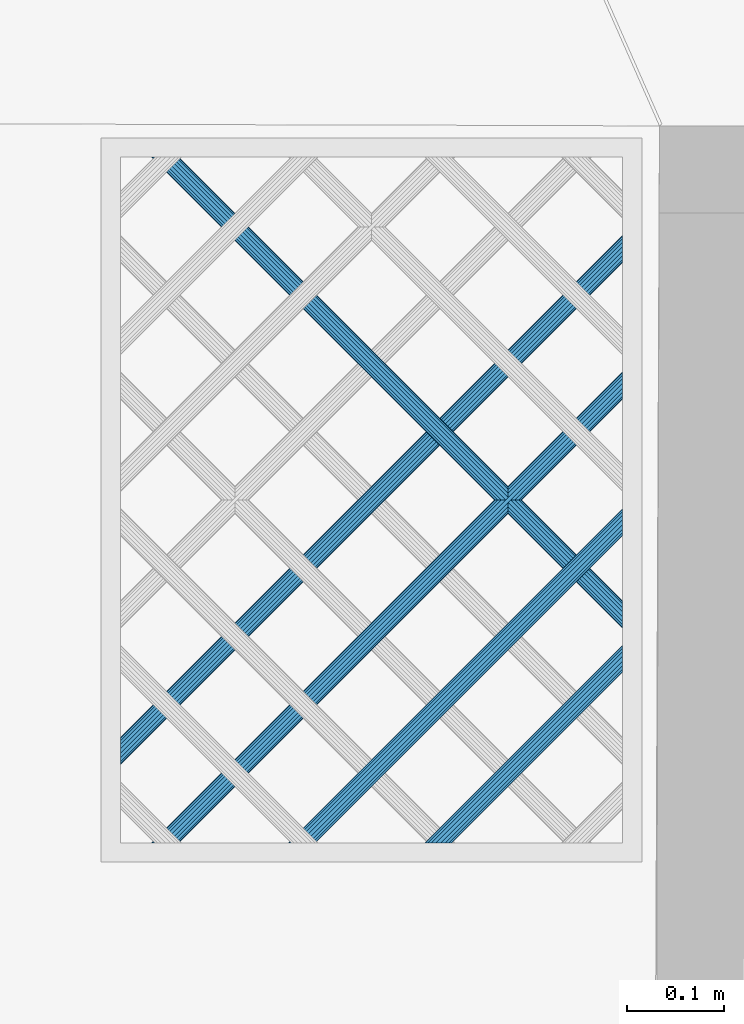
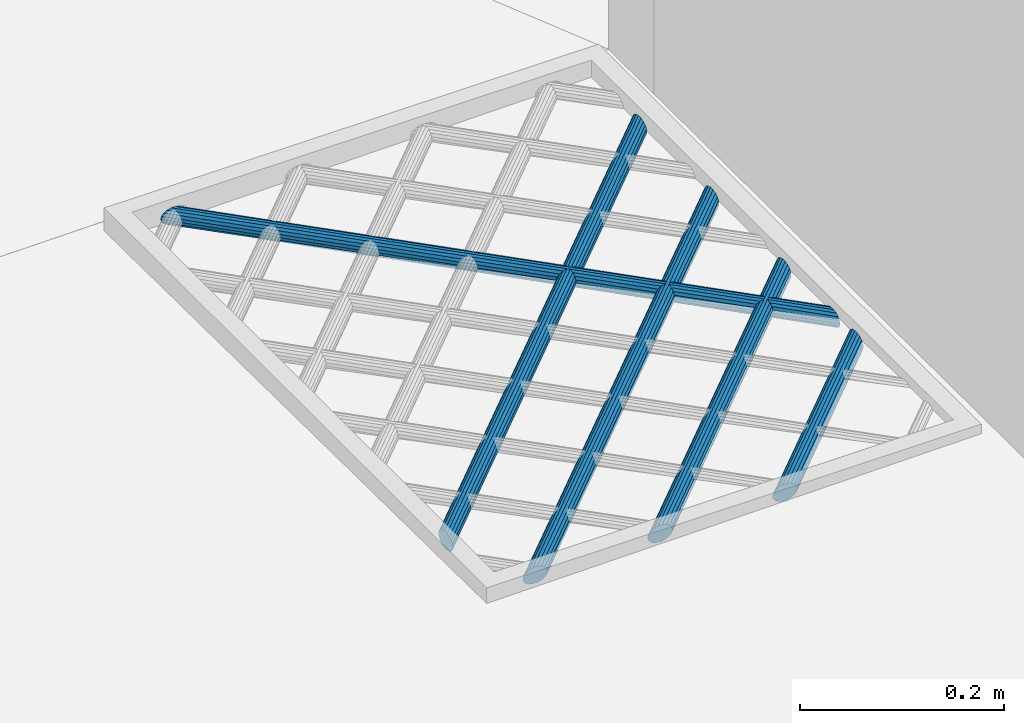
# One storey, part 53 of 133: 5 members, 1 element without a shape of its own.
"""IFC2X3 building model written with IfcOpenShell, lengths in centimetres."""

import ifcopenshell
import ifcopenshell.guid

model = None  # the IFC model being written
_history = None  # IfcOwnerHistory: only IFC2X3 demands one
_inside = {}  # id of a spatial element -> (the spatial element, [elements in it])
_under = {}  # id of a project, library or spatial element -> (it, [spatial elements below it])
_declared = {}  # id of a project -> (the project, [libraries it declares])
_typed = {}  # id of a type object -> (the type object, [elements of that type])
_made_of = {}  # id of a material, layer set ... -> (it, [elements and type objects made of it])


def new_model(schema):
    """Start an empty IFC model of exactly this schema.

    Asked for "IFC4X3", IfcOpenShell would pick the latest addendum, in which some entities
    have other attributes; the version numbers below select the first issue.
    IFC2X3 requires an IfcOwnerHistory on every rooted entity: one is made here for all.
    """
    global model, _history
    if schema == "IFC4X3":
        model = ifcopenshell.file(schema_version=(4, 3, 0, 0))
    else:
        model = ifcopenshell.file(schema=schema)
    _inside.clear()
    _under.clear()
    _declared.clear()
    _typed.clear()
    _made_of.clear()
    _history = None
    if model.schema == "IFC2X3":
        org = make("IfcOrganization", Name="unknown")
        user = make(
            "IfcPersonAndOrganization",
            ThePerson=make("IfcPerson", FamilyName="unknown"),
            TheOrganization=org,
        )
        app = make(
            "IfcApplication",
            ApplicationDeveloper=org,
            Version="unknown",
            ApplicationFullName="unknown",
            ApplicationIdentifier="unknown",
        )
        _history = make(
            "IfcOwnerHistory",
            OwningUser=user,
            OwningApplication=app,
            ChangeAction="ADDED",
            CreationDate=0,
        )
    return model


def make(cls, **values):
    """One entity of the class cls with the attributes given. An attribute that is None is left unset."""
    return model.create_entity(
        cls, **{name: value for name, value in values.items() if value is not None}
    )


def entity(cls, *values):
    """Any entity or typed value of the class cls, its attributes in the order of the schema. None: left unset."""
    e = model.create_entity(cls)
    for i, value in enumerate(values):
        if value is not None:
            e[i] = value
    return e


def rooted(cls, **values):
    """An entity with a GlobalId (a new one), such as an element, a storey or a relation."""
    return make(cls, GlobalId=ifcopenshell.guid.new(), OwnerHistory=_history, **values)


def si_unit(unit_type, name, prefix=None):
    """IfcSIUnit, for example si_unit("LENGTHUNIT", "METRE", prefix="MILLI")."""
    return make("IfcSIUnit", UnitType=unit_type, Prefix=prefix, Name=name)


def converted_unit(unit_type, name, factor, base, dimensions=None, offset=None):
    """IfcConversionBasedUnit, such as the inch: factor (a typed value) times the base unit."""
    return make(
        "IfcConversionBasedUnit"
        if offset is None
        else "IfcConversionBasedUnitWithOffset",
        ConversionOffset=offset,
        Dimensions=None
        if dimensions is None
        else entity("IfcDimensionalExponents", *dimensions),
        UnitType=unit_type,
        Name=name,
        ConversionFactor=make(
            "IfcMeasureWithUnit", ValueComponent=factor, UnitComponent=base
        ),
    )


def assignment(units):
    """IfcUnitAssignment: the units of a project."""
    return None if units is None else make("IfcUnitAssignment", Units=units)


def point(xyz):
    """IfcCartesianPoint."""
    return None if xyz is None else make("IfcCartesianPoint", Coordinates=xyz)


def direction(xyz):
    """IfcDirection."""
    return None if xyz is None else make("IfcDirection", DirectionRatios=xyz)


def frame(location, z_axis=None, x_axis=None):
    """IfcAxis2Placement3D, a coordinate frame: its origin and axes. An axis left out is left unset."""
    return make(
        "IfcAxis2Placement3D",
        Location=point(location),
        Axis=direction(z_axis),
        RefDirection=direction(x_axis),
    )


def origin():
    """The frame at (0, 0, 0) with its axes left unset."""
    return frame((0.0, 0.0, 0.0))


def origin_with_axes():
    """The frame at (0, 0, 0) with the z axis (0, 0, 1) and the x axis (1, 0, 0) written out."""
    return frame((0.0, 0.0, 0.0), z_axis=(0.0, 0.0, 1.0), x_axis=(1.0, 0.0, 0.0))


def place(relative_to, where):
    """IfcLocalPlacement: puts the frame where relative to a parent placement (None: the world)."""
    return make(
        "IfcLocalPlacement", PlacementRelTo=relative_to, RelativePlacement=where
    )


def context(
    kind, dimensions, precision=None, world=None, true_north=None, identifier=None
):
    """IfcGeometricRepresentationContext, for example the 3D "Model" context."""
    return make(
        "IfcGeometricRepresentationContext",
        ContextIdentifier=identifier,
        ContextType=kind,
        CoordinateSpaceDimension=dimensions,
        Precision=precision,
        WorldCoordinateSystem=world,
        TrueNorth=true_north,
    )


def subcontext(parent, identifier, kind, view, scale=None):
    """IfcGeometricRepresentationSubContext, for example "Body" below "Model"."""
    return make(
        "IfcGeometricRepresentationSubContext",
        ContextIdentifier=identifier,
        ContextType=kind,
        ParentContext=parent,
        TargetScale=scale,
        TargetView=view,
    )


def project(units=None, contexts=None):
    """IfcProject with its units and contexts."""
    return rooted(
        "IfcProject",
        Name="project",
        RepresentationContexts=contexts,
        UnitsInContext=assignment(units),
    )


def spatial(cls, under=None, at=None, **own):
    """A site, building, storey or space (cls), placed at a placement, below another one or the project."""
    s = rooted(cls, ObjectPlacement=at, **own)
    if under is not None:
        _under.setdefault(under.id(), (under, []))[1].append(s)
    return s


def faces_of(points, faces, orient=None, outer=None):
    """IfcFace entities. A face is a list of loops; a loop is a list of indices into points, from 0.

    orient and outer hold one flag for each loop. By default every Orientation is true, the
    first loop of a face is its IfcFaceOuterBound and the others are IfcFaceBound.
    """
    made = []
    for i, loops in enumerate(faces):
        bounds = []
        for j, loop in enumerate(loops):
            is_outer = j == 0 if outer is None else outer[i][j]
            bounds.append(
                make(
                    "IfcFaceOuterBound" if is_outer else "IfcFaceBound",
                    Bound=make("IfcPolyLoop", Polygon=[points[k] for k in loop]),
                    Orientation=True if orient is None else orient[i][j],
                )
            )
        made.append(make("IfcFace", Bounds=bounds))
    return made


def faceted_brep(points, faces, orient=None, outer=None, voids=None):
    """IfcFacetedBrep: a solid bounded by flat faces; with voids (closed shells), ...WithVoids."""
    shared = [point(p) for p in points]
    hull = make("IfcClosedShell", CfsFaces=faces_of(shared, faces, orient, outer))
    if voids is None:
        return make("IfcFacetedBrep", Outer=hull)
    return make(
        "IfcFacetedBrepWithVoids",
        Outer=hull,
        Voids=[
            make(cls, CfsFaces=faces_of(shared, fs, o, b)) for cls, fs, o, b in voids
        ],
    )


def shape(context_of_items, identifier, shape_type, items):
    """IfcShapeRepresentation: the items that make up one representation, for example the "Body"."""
    return make(
        "IfcShapeRepresentation",
        ContextOfItems=context_of_items,
        RepresentationIdentifier=identifier,
        RepresentationType=shape_type,
        Items=items,
    )


def material(Name=None, Category=None):
    """IfcMaterial."""
    return make("IfcMaterial", Name=Name, Category=Category)


def made_of(thing, what):
    """Note that an element or type object is made of a material, layer set ...; save() writes the relation."""
    if what is not None:
        _made_of.setdefault(what.id(), (what, []))[1].append(thing)
    return thing


def type_object(cls, material=None, **own):
    """A type object (cls), such as IfcWallType, which elements share."""
    return made_of(rooted(cls, **own), material)


def element(
    cls,
    number,
    at=None,
    inside=None,
    cuts=None,
    type_object=None,
    material=None,
    context=None,
    identifier="Body",
    shape_type=None,
    held_by="IfcProductDefinitionShape",
    body=None,
    shapes=None,
    **own,
):
    """One element of the class cls, such as IfcWall. Its Tag is "e" and its number.

    at: its placement. inside: the storey or other place that contains it. cuts: it is an
    opening in that element (IfcRelVoidsElement). A single representation is given by context,
    identifier, shape_type and body (its items); several are given by shapes. held_by: the class
    of the entity that holds the representations. save() writes the other relations.
    """
    e = rooted(cls, Tag="e%d" % number, ObjectPlacement=at, **own)
    if body is not None:
        shapes = [shape(context, identifier, shape_type, body)]
    if shapes is not None:
        e.Representation = make(held_by, Representations=shapes)
    if inside is not None:
        _inside.setdefault(inside.id(), (inside, []))[1].append(e)
    if cuts is not None:
        rooted(
            "IfcRelVoidsElement", RelatingBuildingElement=cuts, RelatedOpeningElement=e
        )
    if type_object is not None:
        _typed.setdefault(type_object.id(), (type_object, []))[1].append(e)
    return made_of(e, material)


def aggregate(whole, parts):
    """IfcRelAggregates: a whole, such as a stair, and the parts it consists of."""
    return rooted("IfcRelAggregates", RelatingObject=whole, RelatedObjects=parts)


def save(model, path):
    """Write the relations noted so far, then the file.

    IfcRelAggregates (storeys below a building ...), IfcRelContainedInSpatialStructure (elements
    in a storey), IfcRelDefinesByType, IfcRelAssociatesMaterial and IfcRelDeclares: one each for
    every whole, place, type object, material and project.
    """
    for whole, parts in _under.values():
        aggregate(whole, parts)
    for where, things in _inside.values():
        rooted(
            "IfcRelContainedInSpatialStructure",
            RelatedElements=things,
            RelatingStructure=where,
        )
    for kind, things in _typed.values():
        rooted("IfcRelDefinesByType", RelatedObjects=things, RelatingType=kind)
    for what, things in _made_of.values():
        rooted("IfcRelAssociatesMaterial", RelatedObjects=things, RelatingMaterial=what)
    for by, libraries in _declared.values():
        rooted("IfcRelDeclares", RelatingContext=by, RelatedDefinitions=libraries)
    model.write(path)


model = new_model("IFC2X3")

# Units and contexts
model_context = context("Model", 3, precision=0.0001, world=origin(), true_north=direction((0.225632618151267, 0.974212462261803, 0.0)))
body_context = subcontext(model_context, "Body", "Model", "MODEL_VIEW")
ifc_project = project(units=[si_unit("LENGTHUNIT", "METRE", prefix="CENTI"), si_unit("AREAUNIT", "SQUARE_METRE", prefix="CENTI"), si_unit("VOLUMEUNIT", "CUBIC_METRE", prefix="CENTI"), converted_unit("PLANEANGLEUNIT", "DEGREE", entity("IfcRatioMeasure", 0.0174532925), si_unit("PLANEANGLEUNIT", "RADIAN"), dimensions=[0, 0, 0, 0, 0, 0, 0])], contexts=[model_context])

# Site, building, storey
site_placement = place(None, origin_with_axes())
site = spatial("IfcSite", under=ifc_project, at=site_placement, Name="Default Site", CompositionType="ELEMENT")
building_placement = place(site_placement, origin_with_axes())
building = spatial("IfcBuilding", under=site, at=building_placement, Name="Default Building", CompositionType="ELEMENT")
storey_placement = place(building_placement, frame((0.0, 0.0, -291.400371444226), z_axis=(0.0, 0.0, 1.0), x_axis=(1.0, 0.0, 0.0)))
storey = spatial("IfcBuildingStorey", under=building, at=storey_placement, Name="Rez-de-Jardin", CompositionType="ELEMENT", Elevation=-291.400371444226)

# Assembly, members
building_element_proxy_type = type_object("IfcBuildingElementProxyType", Name="Type Object", PredefinedType="NOTDEFINED")
assembly_placement = place(storey_placement, frame((-1322.94034957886, 694.801568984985, 108.0), z_axis=(0.0, 1.0, -2.38697950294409e-15), x_axis=(1.0, 0.0, 0.0)))
assembly = element("IfcElementAssembly", 1, at=assembly_placement, inside=storey, type_object=building_element_proxy_type, Name="Panneau 303645", ObjectType="Precast panel", PredefinedType="USERDEFINED")
ifc_material = material(Name="Aluminium satiné")
member_1_placement = place(assembly_placement, frame((54.0000021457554, 0.342020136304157, 62.171071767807), z_axis=(0.999999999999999, 0.0, 0.0), x_axis=(0.0, -0.774594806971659, -0.632457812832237)))
member_1 = element("IfcMember", 2, at=member_1_placement, material=ifc_material, Name="4294966978", context=body_context, shape_type="Brep", body=[
    faceted_brep([(9.43689570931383e-14, -1.0547118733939e-13, -1.55431223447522e-13), (-0.388290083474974, -1.11022302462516e-13, -1.55431223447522e-13), (-0.799166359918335, -0.150246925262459, -1.55431223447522e-13), (-1.18307325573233, -0.432621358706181, -1.55431223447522e-13), (-1.4937075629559, -0.813066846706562, -1.55431223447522e-13), (-1.69359804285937, -1.2456909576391, -1.55431223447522e-13), (-1.75863665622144, -1.67831484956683, -1.55431223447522e-13), (-1.68098087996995, -2.05876033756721, -1.55431223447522e-13), (-1.46999510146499, -2.34113750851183, -1.55431223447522e-13), (-1.15112683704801, -2.49138695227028, -1.55431223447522e-13), (-0.762836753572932, -2.49138695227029, -1.55431223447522e-13), (-0.35196047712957, -2.34114002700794, -1.55431223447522e-13), (0.0319464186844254, -2.05876559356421, -1.55431223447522e-13), (0.342580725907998, -1.67832010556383, -1.55431223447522e-13), (0.542471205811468, -1.2456959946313, -1.55431223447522e-13), (0.607509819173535, -0.813072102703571, -1.55431223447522e-13), (0.529854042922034, -0.432626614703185, -1.55431223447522e-13), (0.318868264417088, -0.15024944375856, -1.55431223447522e-13), (33.2066728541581, 40.1286784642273, -52.0000021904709), (33.4176591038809, 39.8463018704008, -52.0000021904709), (33.4953158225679, 39.4658575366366, -52.0000021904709), (33.4302762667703, 39.0332324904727, -52.0000021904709), (33.230385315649, 38.600607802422, -52.0000021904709), (32.9197528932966, 38.2201646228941, -52.0000021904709), (32.5358459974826, 37.9377901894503, -52.0000021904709), (32.1249683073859, 37.7875415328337, -52.0000021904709), (31.7366791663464, 37.7875426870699, -52.0000021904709), (31.417811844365, 37.9377932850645, -52.0000021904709), (31.2068251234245, 38.220169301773, -52.0000021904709), (31.1291684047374, 38.6006136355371, -52.0000021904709), (31.1942084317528, 39.0332392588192, -52.0000021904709), (31.3940989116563, 39.4658633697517, -52.0000021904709), (31.7047313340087, 39.8463065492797, -52.0000021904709), (32.0886387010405, 40.1286815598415, -52.0000021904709), (32.4995159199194, 40.2789296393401, -52.0000021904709), (32.8878050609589, 40.2789284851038, -52.0000021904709), (0.529854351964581, -0.432626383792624, 3.74318339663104e-07), (33.4176610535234, 39.8463033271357, -51.9999998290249), (33.2066747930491, 40.1286799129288, -51.9999998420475), (0.607510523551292, -0.813071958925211, 5.5685903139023e-07), (33.4953177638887, 39.4658579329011, -52.000000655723), (33.4176610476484, 39.8463022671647, -52.0000006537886), (0.542470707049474, -1.24569591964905, -2.57365220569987e-07), (33.430277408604, 39.0332323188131, -52.0000016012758), (33.4953168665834, 39.4658573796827, -52.0000016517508), (0.342580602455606, -1.6783200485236, -3.38955217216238e-08), (33.2303862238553, 38.6006073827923, -52.0000019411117), (33.4302771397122, 39.0332320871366, -52.000001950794), (0.0319464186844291, -2.05876559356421, -1.55431223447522e-13), (-0.351960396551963, -2.34114013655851, -3.38955188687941e-08), (32.5358458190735, 37.9377904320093, -52.0000021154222), (32.9197526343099, 38.2201649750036, -52.0000020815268), (-0.762836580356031, -2.49138742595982, -2.57365219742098e-07), (32.1249679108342, 37.7875426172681, -52.0000016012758), (32.5358457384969, 37.9377908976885, -52.0000018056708), (-1.15112683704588, -2.49138623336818, 5.56859028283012e-07), (31.7366791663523, 37.7875446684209, -52.000000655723), (32.1249683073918, 37.7875435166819, -52.0000006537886), (-1.46999493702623, -2.34113715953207, 3.74318334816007e-07), (31.4178122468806, 37.9377941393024, -52.0000012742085), (31.7366797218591, 37.7875438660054, -52.0000009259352), (-1.68098118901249, -2.05876056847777, -3.74318646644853e-07), (31.2068258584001, 38.2201698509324, -52.0000013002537), (31.4178122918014, 37.9377936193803, -52.000001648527), (-1.7586373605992, -1.67831499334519, -5.56859344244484e-07), (31.1291696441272, 38.6006138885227, -52.0000012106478), (31.2068263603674, 38.2201695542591, -52.0000012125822), (-1.69359754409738, -1.24569103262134, 2.5736491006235e-07), (31.1942096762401, 39.033239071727, -52.0000015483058), (31.1291700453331, 38.6006133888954, -52.0000013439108), (-1.49370743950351, -0.813066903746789, 3.38952108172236e-08), (31.3940994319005, 39.4658631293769, -52.0000020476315), (31.1942088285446, 39.0332390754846, -52.0000020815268), (-1.18307325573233, -0.432621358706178, -1.55431223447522e-13), (-0.799166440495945, -0.150246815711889, 3.38952090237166e-08), (32.088638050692, 40.1286824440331, -52.0000019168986), (31.7047306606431, 39.8463074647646, -52.0000019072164), (-0.388290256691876, 4.73689418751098e-07, 2.57364911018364e-07), (32.4995153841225, 40.278931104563, -52.0000013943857), (32.0886381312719, 40.1286831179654, -52.0000013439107), (-2.03525639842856e-12, -7.18902220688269e-07, -5.56859347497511e-07), (32.8878050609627, 40.27892975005, -52.0000012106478), (32.4995159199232, 40.278930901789, -52.0000012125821), (0.318868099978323, -0.15024979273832, -3.74318647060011e-07), (33.2066737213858, 40.1286803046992, -52.000000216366), (32.8878059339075, 40.2789303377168, -52.0000002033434)], [[[0, 1, 2, 3, 4, 5, 6, 7, 8, 9, 10, 11, 12, 13, 14, 15, 16, 17]], [[18, 19, 20, 21, 22, 23, 24, 25, 26, 27, 28, 29, 30, 31, 32, 33, 34, 35]], [[17, 36, 37, 38]], [[16, 39, 40, 41]], [[15, 42, 43, 44]], [[14, 45, 46, 47]], [[13, 48, 23, 22]], [[12, 49, 50, 51]], [[11, 52, 53, 54]], [[10, 55, 56, 57]], [[9, 58, 59, 60]], [[8, 61, 62, 63]], [[7, 64, 65, 66]], [[6, 67, 68, 69]], [[5, 70, 71, 72]], [[4, 73, 32, 31]], [[3, 74, 75, 76]], [[2, 77, 78, 79]], [[1, 80, 81, 82]], [[0, 83, 84, 85]]]),
])
member_2_placement = place(assembly_placement, frame((54.0000021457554, 0.342020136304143, 48.0289369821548), z_axis=(0.999999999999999, 0.0, 0.0), x_axis=(0.0, -0.774594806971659, -0.632457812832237)))
member_2 = element("IfcMember", 3, at=member_2_placement, material=ifc_material, Name="4294966977", context=body_context, shape_type="Brep", body=[
    faceted_brep([(3.88578058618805e-14, -1.4432899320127e-13, -1.55431223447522e-13), (-0.388290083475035, -1.4432899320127e-13, -1.55431223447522e-13), (-0.799166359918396, -0.150246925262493, -1.55431223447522e-13), (-1.18307514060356, -0.432623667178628, -1.55431223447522e-13), (-1.49370756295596, -0.8130668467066, -1.55431223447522e-13), (-1.69359615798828, -1.24568864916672, -1.55431223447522e-13), (-1.75863854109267, -1.67831715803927, -1.55431223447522e-13), (-1.68097899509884, -2.05875802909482, -1.55431223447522e-13), (-1.46999321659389, -2.34113520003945, -1.55431223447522e-13), (-1.1511249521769, -2.4913846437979, -1.55431223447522e-13), (-0.762838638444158, -2.49138926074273, -1.55431223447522e-13), (-0.351958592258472, -2.34113771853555, -1.55431223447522e-13), (0.0319464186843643, -2.05876559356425, -1.55431223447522e-13), (0.342578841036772, -1.67832241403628, -1.55431223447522e-13), (0.542471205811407, -1.24569599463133, -1.55431223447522e-13), (0.607509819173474, -0.813072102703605, -1.55431223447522e-13), (0.529854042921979, -0.432626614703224, -1.55431223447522e-13), (0.318866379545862, -0.150251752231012, -1.55431223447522e-13), (29.3762878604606, 35.4374622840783, -45.9436528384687), (29.6412148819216, 35.2211489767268, -46.0289403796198), (29.8741878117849, 35.0309262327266, -46.2745159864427), (30.0471066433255, 34.8897377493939, -46.6507598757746), (30.1391148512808, 34.8146129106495, -47.1122905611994), (30.1391148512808, 34.8146129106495, -47.6034417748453), (30.0471066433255, 34.8897377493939, -48.0649732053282), (29.8741878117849, 35.0309262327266, -48.44121709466), (29.6412148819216, 35.2211489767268, -48.686792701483), (29.3762878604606, 35.4374622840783, -48.772080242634), (29.1113608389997, 35.6537755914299, -48.686792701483), (28.8783879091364, 35.8439983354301, -48.44121709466), (28.7054690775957, 35.9851868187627, -48.0649732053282), (28.6134608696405, 36.0603116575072, -47.6034417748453), (28.6134608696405, 36.0603116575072, -47.1122905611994), (28.7054690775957, 35.9851868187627, -46.6507598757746), (28.8783879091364, 35.8439983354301, -46.2745159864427), (29.1113608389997, 35.6537755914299, -46.0289403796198), (0.529853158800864, -0.432627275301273, -1.07086528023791e-06), (29.6412153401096, 35.2211493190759, -46.0289398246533), (29.376288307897, 35.4374626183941, -45.9436522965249), (0.607510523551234, -0.813071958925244, 5.56859033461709e-07), (29.8741893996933, 35.0309265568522, -46.2745147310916), (29.6412164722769, 35.2211493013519, -46.0289391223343), (0.542470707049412, -1.24569591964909, -2.57365220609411e-07), (30.0471074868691, 34.8897376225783, -46.6507594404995), (29.8741885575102, 35.0309261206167, -46.2745156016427), (0.342579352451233, -1.67832265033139, 1.40414948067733e-07), (30.1391154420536, 34.8146126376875, -47.1122903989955), (30.0471073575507, 34.8897374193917, -46.6507596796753), (0.0319464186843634, -2.05876559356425, -1.55431223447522e-13), (-0.351958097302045, -2.34113839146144, -2.08205990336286e-07), (30.0471065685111, 34.8897378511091, -48.0649731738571), (30.1391147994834, 34.8146129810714, -47.6034417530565), (-0.762839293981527, -2.49138746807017, 9.73994968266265e-07), (29.8741872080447, 35.0309278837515, -48.4412161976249), (30.047106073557, 34.8897393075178, -48.064972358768), (-1.15112495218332, -2.49138681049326, -1.67831518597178e-06), (29.6412148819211, 35.2211487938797, -48.6867928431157), (29.8741878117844, 35.0309260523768, -48.4412172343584), (-1.46999305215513, -2.34113485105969, 3.74318334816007e-07), (29.37628873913, 35.4374641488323, -48.7720782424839), (29.6412157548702, 35.2211508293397, -48.6867907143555), (-1.68097930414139, -2.05875826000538, -3.74318648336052e-07), (29.1113621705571, 35.6537765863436, -48.686791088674), (29.3762892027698, 35.4374632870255, -48.7720786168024), (-1.75863641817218, -1.67831672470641, 1.67831487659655e-06), (28.8783898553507, 35.8439987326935, -48.4412155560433), (29.1113627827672, 35.6537759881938, -48.6867911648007), (-1.69359804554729, -1.24568836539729, -9.73995278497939e-07), (28.7054688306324, 35.9851868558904, -48.0649733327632), (28.8783877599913, 35.843998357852, -48.44121717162), (-1.49370680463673, -0.813067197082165, 2.08205678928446e-07), (28.613461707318, 36.0603112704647, -47.6034415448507), (28.7054699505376, 35.9851864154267, -48.0649729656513), (-0.799166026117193, -0.150247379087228, -1.40415259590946e-07), (28.7054689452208, 35.9851869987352, -46.6507598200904), (28.6134608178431, 36.0603117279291, -47.1122905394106), (-0.388290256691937, 4.73689385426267e-07, 2.57364911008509e-07), (28.8783874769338, 35.8439995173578, -46.2745153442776), (28.7054686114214, 35.9851880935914, -46.6507591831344), (-2.0907675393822e-12, -7.18902256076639e-07, -5.56859344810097e-07), (29.1113608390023, 35.6537764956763, -46.0289396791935), (28.878387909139, 35.8439992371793, -46.2745152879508), (0.318866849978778, -0.15025075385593, 1.07086497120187e-06), (29.3762885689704, 35.4374637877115, -45.9436512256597), (29.1113615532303, 35.6537771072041, -46.0289387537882)], [[[0, 1, 2, 3, 4, 5, 6, 7, 8, 9, 10, 11, 12, 13, 14, 15, 16, 17]], [[18, 19, 20, 21, 22, 23, 24, 25, 26, 27, 28, 29, 30, 31, 32, 33, 34, 35]], [[17, 36, 37, 38]], [[16, 39, 40, 41]], [[15, 42, 43, 44]], [[14, 45, 46, 47]], [[13, 48, 23, 22]], [[12, 49, 50, 51]], [[11, 52, 53, 54]], [[10, 55, 56, 57]], [[9, 58, 59, 60]], [[8, 61, 62, 63]], [[7, 64, 65, 66]], [[6, 67, 68, 69]], [[5, 70, 71, 72]], [[4, 3, 32, 31]], [[3, 73, 74, 75]], [[2, 76, 77, 78]], [[1, 79, 80, 81]], [[0, 82, 83, 84]]]),
])
member_3_placement = place(assembly_placement, frame((54.0000021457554, 0.342020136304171, 33.8868021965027), z_axis=(0.999999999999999, 0.0, 0.0), x_axis=(0.0, -0.774594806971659, -0.632457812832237)))
member_3 = element("IfcMember", 4, at=member_3_placement, material=ifc_material, Name="4294966976", context=body_context, shape_type="Brep", body=[
    faceted_brep([(6.10622663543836e-14, -8.88178419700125e-14, -1.55431223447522e-13), (-0.388290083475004, -8.88178419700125e-14, -1.55431223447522e-13), (-0.799166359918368, -0.150246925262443, -1.55431223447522e-13), (-1.18307325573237, -0.432621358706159, -1.55431223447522e-13), (-1.49370567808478, -0.813064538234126, -1.55431223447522e-13), (-1.69359615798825, -1.24568864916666, -1.55431223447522e-13), (-1.75863665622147, -1.6783148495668, -1.55431223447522e-13), (-1.68097899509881, -2.05875802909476, -1.55431223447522e-13), (-1.46999321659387, -2.3411352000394, -1.55431223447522e-13), (-1.15112495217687, -2.49138464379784, -1.55431223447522e-13), (-0.762836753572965, -2.49138695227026, -1.55431223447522e-13), (-0.351958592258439, -2.3411377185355, -1.55431223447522e-13), (0.0319483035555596, -2.05876328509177, -1.55431223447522e-13), (0.342580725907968, -1.67832010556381, -1.55431223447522e-13), (0.54247120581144, -1.24569599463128, -1.55431223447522e-13), (0.607509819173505, -0.813072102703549, -1.55431223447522e-13), (0.529854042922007, -0.432626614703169, -1.55431223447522e-13), (0.318868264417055, -0.150249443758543, -1.55431223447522e-13), (20.4319842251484, 24.4830381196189, -31.8015173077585), (20.6969112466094, 24.2667248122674, -31.8868055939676), (20.9298841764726, 24.0765020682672, -32.1323812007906), (21.1028030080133, 23.9353135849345, -32.5086236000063), (21.1948112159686, 23.8601887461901, -32.9701557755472), (21.1948112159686, 23.8601887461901, -33.4613069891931), (21.1028030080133, 23.9353135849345, -33.9228376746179), (20.9298841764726, 24.0765020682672, -34.2990815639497), (20.6969112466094, 24.2667248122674, -34.5446571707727), (20.4319842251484, 24.4830381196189, -34.6299439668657), (20.1670572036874, 24.6993514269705, -34.5446571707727), (19.9340842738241, 24.8895741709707, -34.2990815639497), (19.7611654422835, 25.0307626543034, -33.9228376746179), (19.6691572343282, 25.1058874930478, -33.4613069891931), (19.6691572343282, 25.1058874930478, -32.9701557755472), (19.7611654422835, 25.0307626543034, -32.5086236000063), (19.9340842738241, 24.8895741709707, -32.1323812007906), (20.1670572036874, 24.6993514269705, -31.8868055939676), (0.529854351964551, -0.432626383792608, 3.74318337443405e-07), (20.696912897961, 24.2667260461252, -31.8868035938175), (20.4319855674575, 24.4830391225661, -31.8015156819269), (0.607510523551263, -0.813071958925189, 5.56859032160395e-07), (20.9298857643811, 24.0765023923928, -32.1323799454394), (20.6969128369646, 24.2667251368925, -31.8868043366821), (0.542470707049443, -1.24569591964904, -2.57365222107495e-07), (21.1028032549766, 23.9353135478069, -32.5086234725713), (20.9298849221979, 24.0765019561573, -32.1323808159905), (0.342580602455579, -1.67832004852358, -3.38955205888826e-08), (21.1948118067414, 23.8601884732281, -32.9701556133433), (21.1028034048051, 23.9353134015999, -32.5086234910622), (0.0319483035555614, -2.05876328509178, -1.55431223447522e-13), (-0.351958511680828, -2.34113782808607, -3.3895520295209e-08), (21.1028026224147, 23.9353141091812, -33.922837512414), (21.1948107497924, 23.8601893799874, -33.4613067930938), (-0.762836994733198, -2.49138629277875, 3.58314871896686e-07), (20.9298836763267, 24.0765034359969, -34.2990808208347), (21.102802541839, 23.9353148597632, -33.9228369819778), (-1.15112495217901, -2.49138536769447, -5.60728074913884e-07), (20.696911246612, 24.2667257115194, -34.5446564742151), (20.9298841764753, 24.0765029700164, -34.2990808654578), (-1.4699930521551, -2.34113485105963, 3.74318339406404e-07), (20.431984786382, 24.4830393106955, -34.6299426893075), (20.69691196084, 24.2667263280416, -34.5446555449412), (-1.68097930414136, -2.05875826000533, -3.74318651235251e-07), (20.167058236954, 24.6993521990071, -34.5446559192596), (20.4319849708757, 24.4830386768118, -34.629943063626), (-1.75863594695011, -1.67831470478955, 5.60727765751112e-07), (19.9340858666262, 24.8895744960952, -34.2990803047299), (20.1670587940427, 24.6993517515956, -34.5446559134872), (-1.69359685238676, -1.24568854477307, -3.58315183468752e-07), (19.7611660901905, 25.0307625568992, -33.9228373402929), (19.9340850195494, 24.8895740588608, -34.2990811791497), (-1.49370555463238, -0.813064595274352, 3.38952102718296e-08), (19.6691580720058, 25.1058871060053, -33.4613067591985), (19.7611661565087, 25.0307623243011, -33.9228374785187), (-1.18307325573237, -0.432621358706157, -1.55431223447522e-13), (-0.799166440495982, -0.150246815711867, 3.38952104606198e-08), (19.7611651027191, 25.0307631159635, -32.5086234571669), (19.669156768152, 25.105888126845, -32.9701555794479), (-0.388290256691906, 4.73689437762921e-07, 2.5736490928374e-07), (19.9340838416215, 24.8895753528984, -32.1323805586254), (19.7611651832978, 25.0307633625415, -32.5086232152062), (-2.06856307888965e-12, -7.18902200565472e-07, -5.56859344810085e-07), (20.1670572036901, 24.699352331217, -31.8868048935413), (19.9340842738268, 24.8895750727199, -32.1323805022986), (0.318868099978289, -0.150249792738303, -3.74318647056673e-07), (20.4319847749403, 24.4830392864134, -31.8015160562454), (20.1670579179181, 24.6993529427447, -31.886803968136)], [[[0, 1, 2, 3, 4, 5, 6, 7, 8, 9, 10, 11, 12, 13, 14, 15, 16, 17]], [[18, 19, 20, 21, 22, 23, 24, 25, 26, 27, 28, 29, 30, 31, 32, 33, 34, 35]], [[17, 36, 37, 38]], [[16, 39, 40, 41]], [[15, 42, 43, 44]], [[14, 45, 46, 47]], [[13, 48, 23, 22]], [[12, 49, 50, 51]], [[11, 52, 53, 54]], [[10, 55, 56, 57]], [[9, 58, 59, 60]], [[8, 61, 62, 63]], [[7, 64, 65, 66]], [[6, 67, 68, 69]], [[5, 70, 71, 72]], [[4, 73, 32, 31]], [[3, 74, 75, 76]], [[2, 77, 78, 79]], [[1, 80, 81, 82]], [[0, 83, 84, 85]]]),
])
member_4_placement = place(assembly_placement, frame((54.0000021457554, 0.342020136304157, 19.7446674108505), z_axis=(0.999999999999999, 0.0, 0.0), x_axis=(0.0, -0.774596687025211, -0.632455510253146)))
member_4 = element("IfcMember", 5, at=member_4_placement, material=ifc_material, Name="4294966975", context=body_context, shape_type="Brep", body=[
    faceted_brep([(4.71844785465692e-14, -7.49400541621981e-14, 1.99840144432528e-13), (-0.388289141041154, -7.21644966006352e-14, 1.99840144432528e-13), (-0.79916591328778, -0.150249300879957, 1.99840144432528e-13), (-1.18307196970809, -0.432624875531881, 1.99840144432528e-13), (-1.49370326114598, -0.813068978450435, 1.99840144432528e-13), (-1.69359245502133, -1.24569368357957, 1.99840144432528e-13), (-1.75863072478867, -1.67831892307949, 1.99840144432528e-13), (-1.68097287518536, -2.05876302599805, 1.99840144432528e-13), (-1.46998625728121, -2.34113956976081, 1.99840144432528e-13), (-1.15111754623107, -2.4913880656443, 1.99840144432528e-13), (-0.762828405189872, -2.4913880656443, 1.99840144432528e-13), (-0.351951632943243, -2.34113876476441, 1.99840144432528e-13), (0.0319544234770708, -2.05876319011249, 1.99840144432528e-13), (0.342585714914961, -1.67831908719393, 1.99840144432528e-13), (0.542474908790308, -1.2456943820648, 1.99840144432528e-13), (0.607513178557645, -0.813069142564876, 1.99840144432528e-13), (0.529855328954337, -0.43262503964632, 1.99840144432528e-13), (0.318868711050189, -0.150248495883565, 1.99840144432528e-13), (11.487640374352, 13.528648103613, -17.6593810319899), (11.7525680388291, 13.3123355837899, -17.744669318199), (11.9855415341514, 13.1221135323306, -17.9902434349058), (12.158460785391, 12.9809255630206, -18.3664888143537), (12.2504692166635, 12.905800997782, -18.8280194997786), (12.2504692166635, 12.905800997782, -19.3191707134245), (12.158460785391, 12.9809255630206, -19.7807013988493), (11.9855415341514, 13.1221135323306, -20.1569467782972), (11.7525680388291, 13.3123355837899, -20.4025208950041), (11.487640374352, 13.528648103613, -20.4878091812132), (11.2227127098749, 13.7449606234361, -20.4025208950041), (10.9897392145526, 13.9351826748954, -20.1569467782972), (10.816819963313, 14.0763706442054, -19.7807013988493), (10.7248115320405, 14.1514952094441, -19.3191707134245), (10.7248115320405, 14.1514952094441, -18.8280194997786), (10.816819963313, 14.0763706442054, -18.3664888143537), (10.9897392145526, 13.9351826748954, -17.9902434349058), (11.2227127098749, 13.7449606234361, -17.744669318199), (0.529855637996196, -0.432624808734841, 3.74318692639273e-07), (11.7525690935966, 13.3123363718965, -17.7446680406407), (11.4876411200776, 13.5286486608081, -17.6593801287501), (0.607513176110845, -0.813069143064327, -1.93416533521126e-09), (11.9855417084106, 13.1221135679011, -17.9902432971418), (11.7525689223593, 13.3123357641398, -17.744668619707), (0.54247500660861, -1.24569439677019, 5.04751810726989e-08), (12.158461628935, 12.9809254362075, -18.3664883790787), (11.9855416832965, 13.1221135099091, -17.9902433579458), (0.342585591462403, -1.67831903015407, -3.38951654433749e-08), (12.2504694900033, 12.9058008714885, -18.8280194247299), (12.1584611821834, 12.9809253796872, -18.3664887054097), (0.0319544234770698, -2.05876319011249, 1.99840144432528e-13), (-0.351951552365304, -2.34113887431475, -3.38951660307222e-08), (12.1584606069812, 12.9809258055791, -19.7807013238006), (12.2504689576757, 12.9058013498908, -19.3191706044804), (-0.762828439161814, -2.49138797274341, 5.04751818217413e-08), (11.9855410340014, 13.1221149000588, -20.1569460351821), (12.1584605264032, 12.980926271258, -19.7807010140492), (-1.15111754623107, -2.49138806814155, -1.93416708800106e-09), (11.7525680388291, 13.3123364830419, -20.4025201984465), (11.9855415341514, 13.1221151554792, -20.1569455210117), (-1.46998609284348, -2.34113922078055, 3.74318693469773e-07), (11.487640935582, 13.5286492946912, -20.4878079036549), (11.7525684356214, 13.3123364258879, -20.4025199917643), (-1.68097318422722, -2.05876325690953, -3.74318293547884e-07), (11.2227131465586, 13.7449609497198, -20.4025203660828), (11.4876411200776, 13.5286486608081, -20.4878082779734), (-1.75863072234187, -1.67831892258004, 1.93456655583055e-09), (10.9897408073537, 13.9351830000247, -20.1569455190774), (11.222713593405, 13.744960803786, -20.4025201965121), (-1.69359255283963, -1.24569366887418, -5.04747825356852e-08), (10.8168206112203, 14.0763705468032, -19.7807010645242), (10.9897405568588, 13.9351824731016, -20.1569460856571), (-1.49370313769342, -0.813069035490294, 3.38955654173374e-08), (10.7248120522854, 14.1514949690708, -19.3191705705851), (10.8168203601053, 14.076370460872, -19.7807012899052), (-1.18307196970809, -0.432624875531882, 1.99840144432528e-13), (10.7248115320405, 14.1514952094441, -18.8280194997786), (10.7248115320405, 14.1514952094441, -19.3191707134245), (-0.79916599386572, -0.150249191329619, 3.38955661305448e-08), (10.8168196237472, 14.0763711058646, -18.3664886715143), (10.7248112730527, 14.1514955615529, -18.8280193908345), (-0.388289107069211, -9.29009660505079e-08, -5.04747826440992e-08), (10.989739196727, 13.935182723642, -17.9902434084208), (10.8168197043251, 14.0763713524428, -18.3664884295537), (4.71587810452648e-14, 2.49718199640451e-09, 1.93456677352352e-09), (11.2227127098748, 13.7449615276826, -17.7446686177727), (10.9897392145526, 13.9351828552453, -17.9902432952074), (0.318868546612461, -0.150248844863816, -3.74318294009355e-07), (11.4876406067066, 13.5286485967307, -17.6593805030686), (11.2227131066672, 13.7449614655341, -17.7446684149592)], [[[0, 1, 2, 3, 4, 5, 6, 7, 8, 9, 10, 11, 12, 13, 14, 15, 16, 17]], [[18, 19, 20, 21, 22, 23, 24, 25, 26, 27, 28, 29, 30, 31, 32, 33, 34, 35]], [[17, 36, 37, 38]], [[16, 39, 40, 41]], [[15, 42, 43, 44]], [[14, 45, 46, 47]], [[13, 48, 23, 22]], [[12, 49, 50, 51]], [[11, 52, 53, 54]], [[10, 55, 56, 57]], [[9, 58, 59, 60]], [[8, 61, 62, 63]], [[7, 64, 65, 66]], [[6, 67, 68, 69]], [[5, 70, 71, 72]], [[4, 73, 74, 75]], [[3, 76, 77, 78]], [[2, 79, 80, 81]], [[1, 82, 83, 84]], [[0, 85, 86, 87]]]),
])
member_5_placement = place(assembly_placement, frame((54.0000021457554, 0.342020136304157, 24.3132099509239), z_axis=(0.999999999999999, 0.0, 0.0), x_axis=(0.0, -0.774596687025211, -0.632455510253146)))
member_5 = element("IfcMember", 6, at=member_5_placement, material=ifc_material, Name="4294966970", context=body_context, shape_type="Brep", body=[
    faceted_brep([(5.55111512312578e-14, -5.55111512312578e-15, 1.99840144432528e-13), (-0.388289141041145, -2.77555756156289e-15, 1.99840144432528e-13), (-0.799165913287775, -0.150249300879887, 1.99840144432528e-13), (-1.18307102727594, -0.432623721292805, 1.99840144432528e-13), (-1.49370231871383, -0.813067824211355, 1.99840144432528e-13), (-1.69359339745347, -1.24569483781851, 1.99840144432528e-13), (-1.75863072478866, -1.67831892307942, 1.99840144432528e-13), (-1.6809738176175, -2.05876418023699, 1.99840144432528e-13), (-1.46998531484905, -2.34113841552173, 1.99840144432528e-13), (-1.15111848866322, -2.49138921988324, 1.99840144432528e-13), (-0.762828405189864, -2.49138806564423, 1.99840144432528e-13), (-0.351952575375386, -2.34113991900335, 1.99840144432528e-13), (0.0319553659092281, -2.05876203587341, 1.99840144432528e-13), (0.342586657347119, -1.67831793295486, 1.99840144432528e-13), (0.542474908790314, -1.24569438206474, 1.99840144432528e-13), (0.607513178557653, -0.813069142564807, 1.99840144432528e-13), (0.529855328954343, -0.432625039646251, 1.99840144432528e-13), (0.318868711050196, -0.150248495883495, 1.99840144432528e-13), (-30.5273021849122, -37.9289402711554, -48.7720802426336), (-30.262374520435, -38.1452527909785, -48.6867927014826), (-30.0294010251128, -38.3354748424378, -48.4412170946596), (-29.8564817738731, -38.4766628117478, -48.0649732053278), (-29.7644733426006, -38.5517873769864, -47.6034417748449), (-29.7644733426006, -38.5517873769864, -47.112290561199), (-29.8564817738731, -38.4766628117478, -46.6507598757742), (-30.0294010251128, -38.3354748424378, -46.2745159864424), (-30.262374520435, -38.1452527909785, -46.0289403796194), (-30.5273021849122, -37.9289402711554, -45.9436528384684), (-30.7922298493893, -37.7126277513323, -46.0289403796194), (-31.0252033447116, -37.522405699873, -46.2745159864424), (-31.1981225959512, -37.381217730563, -46.6507598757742), (-31.2901310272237, -37.3060931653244, -47.112290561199), (-31.2901310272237, -37.3060931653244, -47.6034417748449), (-31.1981225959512, -37.381217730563, -48.0649732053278), (-31.0252033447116, -37.522405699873, -48.4412170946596), (-30.7922298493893, -37.7126277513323, -48.6867927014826), (0.529855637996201, -0.432624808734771, -3.74318293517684e-07), (-30.2623745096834, -38.1452527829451, -48.6867927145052), (0.607513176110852, -0.813069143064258, 1.93456639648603e-09), (-30.0294013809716, -38.3354749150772, -48.4412168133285), (-30.2623748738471, -38.1452528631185, -48.6867924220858), (0.542475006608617, -1.24569439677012, -5.04747824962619e-08), (-29.8564819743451, -38.4766627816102, -48.0649731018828), (-30.029401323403, -38.3354747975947, -48.4412169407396), (0.342586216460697, -1.67831772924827, 1.21050800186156e-07), (-29.7644734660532, -38.5517873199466, -47.6034417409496), (-29.8564819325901, -38.4766627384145, -48.0649731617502), (0.0319553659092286, -2.05876203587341, 1.99840144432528e-13), (-29.7644733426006, -38.5517873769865, -47.112290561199), (-29.7644733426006, -38.5517873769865, -47.6034417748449), (-0.351952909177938, -2.34113946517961, -1.40414903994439e-07), (-29.8564819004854, -38.4766626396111, -46.6507599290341), (-29.7644735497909, -38.5517870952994, -47.1122906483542), (-0.762828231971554, -2.49138853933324, 2.57365265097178e-07), (-30.0294008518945, -38.3354753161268, -46.2745157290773), (-29.8564815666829, -38.4766633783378, -46.6507595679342), (-1.15111848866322, -2.49138850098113, -5.56858988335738e-07), (-30.262374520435, -38.1452527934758, -46.028940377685), (-1.469985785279, -2.34113941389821, 1.07086532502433e-06), (-30.5273024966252, -37.9289409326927, -45.9436521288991), (-30.2623748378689, -38.1452534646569, -46.0289396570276), (-1.68097293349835, -2.05876351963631, -1.07086492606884e-06), (-30.7922295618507, -37.7126275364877, -46.0289407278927), (-30.5273018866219, -37.9289400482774, -45.9436531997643), (-1.75863142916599, -1.67831906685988, 5.56859388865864e-07), (-31.0252040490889, -37.5224058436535, -46.2745154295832), (-30.7922305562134, -37.7126278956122, -46.0289398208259), (-1.69359289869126, -1.24569491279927, -2.57364865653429e-07), (-31.1981226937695, -37.3812177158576, -46.6507598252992), (-1.49370283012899, -0.813067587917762, 1.40415303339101e-07), (-31.290131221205, -37.3060930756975, -47.1122905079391), (-31.1981229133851, -37.3812175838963, -46.650759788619), (-1.18307102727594, -0.432623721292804, 1.99840144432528e-13), (-0.799166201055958, -0.150248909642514, -1.21050400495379e-07), (-31.1981227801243, -37.3812174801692, -48.0649732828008), (-31.2901312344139, -37.3060928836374, -47.6034418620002), (-0.388289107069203, -9.29008959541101e-08, 5.04751819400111e-08), (-31.0252032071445, -37.5224060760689, -48.4412168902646), (-31.1981224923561, -37.381218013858, -48.0649730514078), (5.54854537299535e-14, 2.49725138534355e-09, -1.93416709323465e-09), (-30.7922298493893, -37.7126281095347, -48.6867924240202), (-31.0252033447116, -37.5224060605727, -48.4412168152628), (0.318868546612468, -0.150248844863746, 3.74318693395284e-07), (-30.5273023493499, -37.9289406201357, -48.7720798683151), (-30.7922300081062, -37.7126280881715, -48.6867923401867)], [[[0, 1, 2, 3, 4, 5, 6, 7, 8, 9, 10, 11, 12, 13, 14, 15, 16, 17]], [[18, 19, 20, 21, 22, 23, 24, 25, 26, 27, 28, 29, 30, 31, 32, 33, 34, 35]], [[17, 36, 37, 18]], [[16, 38, 39, 40]], [[15, 41, 42, 43]], [[14, 44, 45, 46]], [[13, 47, 48, 49]], [[12, 50, 51, 52]], [[11, 53, 54, 55]], [[10, 56, 57, 25]], [[9, 58, 59, 60]], [[8, 61, 62, 63]], [[7, 64, 65, 66]], [[6, 67, 68, 29]], [[5, 69, 70, 71]], [[4, 72, 32, 31]], [[3, 73, 74, 75]], [[2, 76, 77, 78]], [[1, 79, 80, 81]], [[0, 82, 83, 84]]]),
])
aggregate(assembly, [member_1, member_2, member_3, member_4, member_5])

save(model, "model.ifc")
